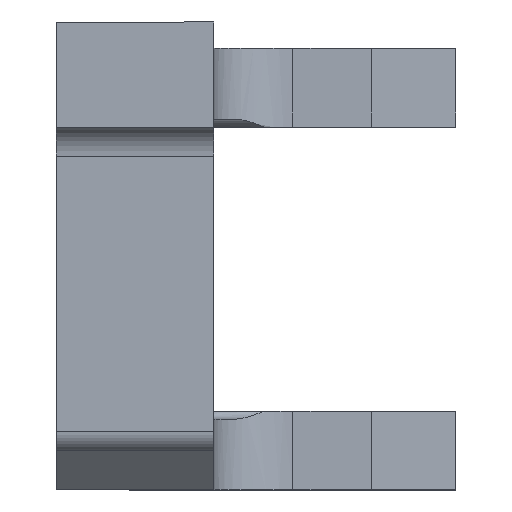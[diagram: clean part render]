
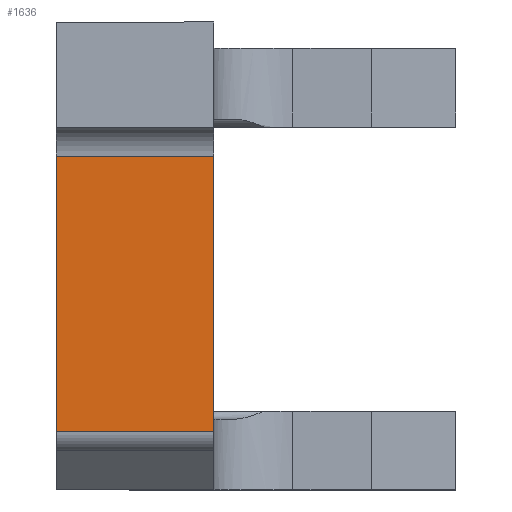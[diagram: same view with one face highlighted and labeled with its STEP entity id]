
A CAD part, left-side view. The second image highlights one B-rep face of the part: STEP entity #1636.
In plain terms, the highlighted free-form (B-spline) face has degree [1, 1] with [2, 2] control points.
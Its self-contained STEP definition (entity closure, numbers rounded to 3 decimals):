
#848=CARTESIAN_POINT('',(-76.338,28.375,-17.5));
#849=VERTEX_POINT('',#848);
#857=CARTESIAN_POINT('',(-76.338,28.375,-69.856));
#858=VERTEX_POINT('',#857);
#859=CARTESIAN_POINT('',(-76.338,28.375,-17.5));
#860=DIRECTION('',(0.0,0.0,-1.0));
#861=VECTOR('',#860,52.356);
#862=LINE('',#859,#861);
#863=EDGE_CURVE('',#849,#858,#862,.T.);
#1428=CARTESIAN_POINT('',(-76.338,58.375,-69.856));
#1429=VERTEX_POINT('',#1428);
#1437=CARTESIAN_POINT('',(-76.338,58.375,-17.5));
#1438=VERTEX_POINT('',#1437);
#1439=CARTESIAN_POINT('',(-76.338,58.375,-69.856));
#1440=DIRECTION('',(0.0,0.0,1.0));
#1441=VECTOR('',#1440,52.356);
#1442=LINE('',#1439,#1441);
#1443=EDGE_CURVE('',#1429,#1438,#1442,.T.);
#1610=CARTESIAN_POINT('',(-76.338,58.375,-17.5));
#1611=DIRECTION('',(0.0,-1.0,0.0));
#1612=VECTOR('',#1611,30.);
#1613=LINE('',#1610,#1612);
#1614=EDGE_CURVE('',#1438,#849,#1613,.T.);
#1620=CARTESIAN_POINT('',(-76.338,58.375,-69.856));
#1621=CARTESIAN_POINT('',(-76.338,58.375,-17.5));
#1622=CARTESIAN_POINT('',(-76.338,28.375,-69.856));
#1623=CARTESIAN_POINT('',(-76.338,28.375,-17.5));
#1624=B_SPLINE_SURFACE_WITH_KNOTS('',1,1,((#1620,#1622),(#1621,#1623)),.UNSPECIFIED.,.F.,.F.,.U.,(2,2),(2,2),(0.0,52.356),(0.0,30.),.UNSPECIFIED.);
#1625=ORIENTED_EDGE('',*,*,#863,.F.);
#1626=ORIENTED_EDGE('',*,*,#1614,.F.);
#1627=ORIENTED_EDGE('',*,*,#1443,.F.);
#1628=CARTESIAN_POINT('',(-76.338,58.375,-69.856));
#1629=DIRECTION('',(0.0,-1.0,0.0));
#1630=VECTOR('',#1629,30.);
#1631=LINE('',#1628,#1630);
#1632=EDGE_CURVE('',#1429,#858,#1631,.T.);
#1633=ORIENTED_EDGE('',*,*,#1632,.T.);
#1634=EDGE_LOOP('',(#1625,#1626,#1627,#1633));
#1635=FACE_OUTER_BOUND('',#1634,.T.);
#1636=ADVANCED_FACE('',(#1635),#1624,.F.);
